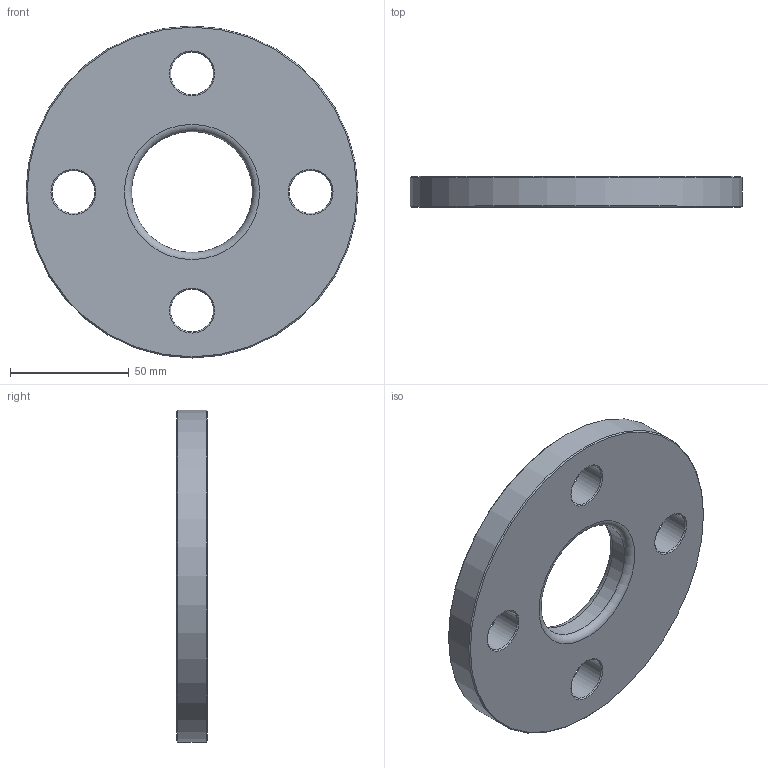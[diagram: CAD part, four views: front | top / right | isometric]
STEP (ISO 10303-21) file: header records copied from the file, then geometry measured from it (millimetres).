
FILE_DESCRIPTION(/* description */ ('Unknown'),/* implementation_level */ '2;1');
FILE_NAME(/* name */ 'FZ040C',/* time_stamp */ '2021-03-15T11:42:15+01:00',/* author */ ('Unknown'),/* organization */ ('Unknown'),/* preprocessor_version */ 'ST-DEVELOPER v16.7',/* originating_system */ 'Solid Edge',/* authorisation */ 'Unknown');
FILE_SCHEMA (('AUTOMOTIVE_DESIGN {1 0 10303 214 3 1 1}'));
Length unit declared in the file: millimetre
Products named in the file (1): FZ040C
Bounding box: 140 x 13 x 140 mm (x, y, z)
Volume: 159527.9 mm3; surface area: 34614.5 mm2
Topology: 1 solids, 1 shells, 20 faces, 54 edges, 36 vertices
Faces by surface type: cone 10, cylinder 6, plane 2, torus 2
Full cylindrical faces by diameter (mm): 18 x4, 51 x1, 140 x1
Entity records: 494 total; most frequent: DIRECTION 90, CARTESIAN_POINT 69, ORIENTED_EDGE 48, EDGE_LOOP 48, FACE_BOUND 48, AXIS2_PLACEMENT_3D 45, EDGE_CURVE 24, VERTEX_POINT 24
